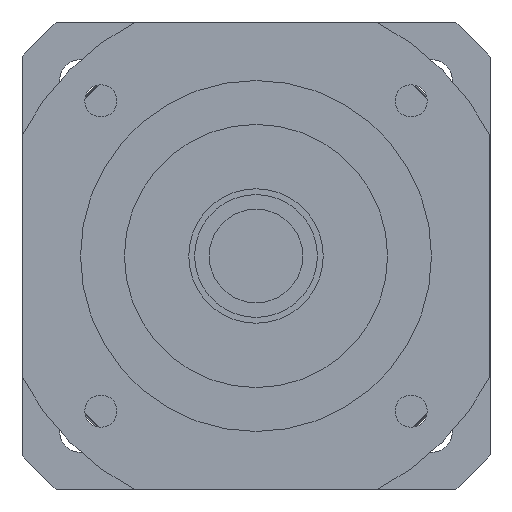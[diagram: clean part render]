
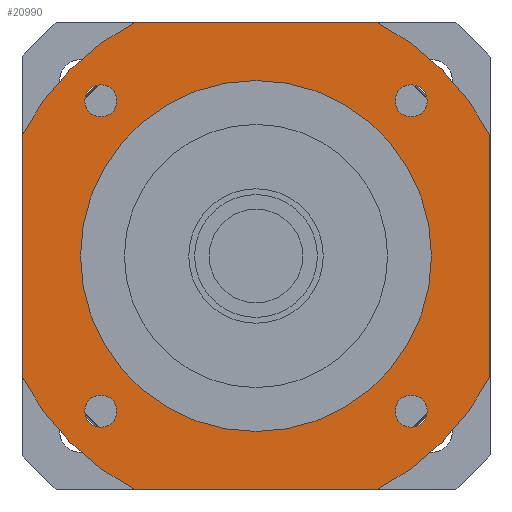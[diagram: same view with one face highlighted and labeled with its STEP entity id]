
A CAD part, left-side view. The second image highlights one B-rep face of the part: STEP entity #20990.
In plain terms, the highlighted planar face has unit normal (-1, 0, 0) as drawn and (0, 0, -1) by its records, which use the part's own axes.
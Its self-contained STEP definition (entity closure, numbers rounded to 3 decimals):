
#19320=CARTESIAN_POINT('',(-26.517,-23.767,-42.));
#19330=VERTEX_POINT('',#19320);
#19360=CARTESIAN_POINT('',(-26.517,-26.517,-42.));
#19370=DIRECTION('',(0.,0.,-1.));
#19380=DIRECTION('',(0.,-1.,0.));
#19390=AXIS2_PLACEMENT_3D('',#19360,#19370,#19380);
#19400=CIRCLE('',#19390,2.75);
#19410=CARTESIAN_POINT('',(-26.517,-29.267,-42.));
#19420=VERTEX_POINT('',#19410);
#19430=EDGE_CURVE('',#19420,#19330,#19400,.T.);
#19550=CARTESIAN_POINT('',(40.,40.,-42.));
#19560=DIRECTION('',(0.,0.,-1.));
#19570=DIRECTION('',(1.,0.,0.));
#19580=AXIS2_PLACEMENT_3D('',#19550,#19560,#19570);
#19590=PLANE('',#19580);
#19600=ORIENTED_EDGE('',*,*,#19430,.F.);
#19610=EDGE_CURVE('',#19330,#19420,#19400,.T.);
#19620=ORIENTED_EDGE('',*,*,#19610,.F.);
#19630=EDGE_LOOP('',(#19620,#19600));
#19640=FACE_BOUND('',#19630,.T.);
#19650=CARTESIAN_POINT('',(-26.517,26.517,-42.));
#19660=DIRECTION('',(0.,0.,-1.));
#19670=DIRECTION('',(-1.,0.,0.));
#19680=AXIS2_PLACEMENT_3D('',#19650,#19660,#19670);
#19690=CIRCLE('',#19680,2.75);
#19700=CARTESIAN_POINT('',(-29.267,26.517,-42.));
#19710=VERTEX_POINT('',#19700);
#19720=CARTESIAN_POINT('',(-23.767,26.517,-42.));
#19730=VERTEX_POINT('',#19720);
#19740=EDGE_CURVE('',#19710,#19730,#19690,.T.);
#19750=ORIENTED_EDGE('',*,*,#19740,.F.);
#19760=EDGE_CURVE('',#19730,#19710,#19690,.T.);
#19770=ORIENTED_EDGE('',*,*,#19760,.F.);
#19780=EDGE_LOOP('',(#19770,#19750));
#19790=FACE_BOUND('',#19780,.T.);
#19800=CARTESIAN_POINT('',(26.517,26.517,-42.));
#19810=DIRECTION('',(0.,0.,-1.));
#19820=DIRECTION('',(0.,1.,0.));
#19830=AXIS2_PLACEMENT_3D('',#19800,#19810,#19820);
#19840=CIRCLE('',#19830,2.75);
#19850=CARTESIAN_POINT('',(26.517,29.267,-42.));
#19860=VERTEX_POINT('',#19850);
#19870=CARTESIAN_POINT('',(26.517,23.767,-42.));
#19880=VERTEX_POINT('',#19870);
#19890=EDGE_CURVE('',#19860,#19880,#19840,.T.);
#19900=ORIENTED_EDGE('',*,*,#19890,.F.);
#19910=EDGE_CURVE('',#19880,#19860,#19840,.T.);
#19920=ORIENTED_EDGE('',*,*,#19910,.F.);
#19930=EDGE_LOOP('',(#19920,#19900));
#19940=FACE_BOUND('',#19930,.T.);
#19950=CARTESIAN_POINT('',(0.,0.,
-42.));
#19960=DIRECTION('',(0.,0.,1.));
#19970=DIRECTION('',(0.,1.,0.));
#19980=AXIS2_PLACEMENT_3D('',#19950,#19960,#19970);
#19990=CIRCLE('',#19980,30.);
#20000=CARTESIAN_POINT('',(-30.,0.,-42.));
#20010=VERTEX_POINT('',#20000);
#20020=CARTESIAN_POINT('',(30.,0.,-42.));
#20030=VERTEX_POINT('',#20020);
#20040=EDGE_CURVE('',#20010,#20030,#19990,.T.);
#20050=ORIENTED_EDGE('',*,*,#20040,.T.);
#20060=CARTESIAN_POINT('',(0.,30.,-42.));
#20070=VERTEX_POINT('',#20060);
#20080=EDGE_CURVE('',#20070,#20010,#19990,.T.);
#20090=ORIENTED_EDGE('',*,*,#20080,.T.);
#20100=EDGE_CURVE('',#20030,#20070,#19990,.T.);
#20110=ORIENTED_EDGE('',*,*,#20100,.T.);
#20120=EDGE_LOOP('',(#20110,#20090,#20050));
#20130=FACE_BOUND('',#20120,.T.);
#20140=CARTESIAN_POINT('',(-40.,40.,-42.));
#20150=DIRECTION('',(1.,0.,0.));
#20160=VECTOR('',#20150,1000.);
#20170=LINE('',#20140,#20160);
#20180=CARTESIAN_POINT('',(-20.616,40.,-42.));
#20190=VERTEX_POINT('',#20180);
#20200=CARTESIAN_POINT('',(20.616,40.,-42.));
#20210=VERTEX_POINT('',#20200);
#20220=EDGE_CURVE('',#20190,#20210,#20170,.T.);
#20230=ORIENTED_EDGE('',*,*,#20220,.T.);
#20240=CARTESIAN_POINT('',(0.,0.,
-42.));
#20250=DIRECTION('',(0.,0.,-1.));
#20260=DIRECTION('',(1.,0.,0.));
#20270=AXIS2_PLACEMENT_3D('',#20240,#20250,#20260);
#20280=CIRCLE('',#20270,45.);
#20290=CARTESIAN_POINT('',(-40.,20.616,-42.));
#20300=VERTEX_POINT('',#20290);
#20310=EDGE_CURVE('',#20300,#20190,#20280,.T.);
#20320=ORIENTED_EDGE('',*,*,#20310,.T.);
#20330=CARTESIAN_POINT('',(-40.,-40.,-42.));
#20340=DIRECTION('',(0.,1.,0.));
#20350=VECTOR('',#20340,1000.);
#20360=LINE('',#20330,#20350);
#20370=CARTESIAN_POINT('',(-40.,-20.616,-42.));
#20380=VERTEX_POINT('',#20370);
#20390=EDGE_CURVE('',#20380,#20300,#20360,.T.);
#20400=ORIENTED_EDGE('',*,*,#20390,.T.);
#20410=CARTESIAN_POINT('',(0.,0.,
-42.));
#20420=DIRECTION('',(0.,0.,-1.));
#20430=DIRECTION('',(1.,0.,0.));
#20440=AXIS2_PLACEMENT_3D('',#20410,#20420,#20430);
#20450=CIRCLE('',#20440,45.);
#20460=CARTESIAN_POINT('',(-20.616,-40.,-42.));
#20470=VERTEX_POINT('',#20460);
#20480=EDGE_CURVE('',#20470,#20380,#20450,.T.);
#20490=ORIENTED_EDGE('',*,*,#20480,.T.);
#20500=CARTESIAN_POINT('',(40.,-40.,-42.));
#20510=DIRECTION('',(-1.,0.,0.));
#20520=VECTOR('',#20510,1000.);
#20530=LINE('',#20500,#20520);
#20540=CARTESIAN_POINT('',(20.616,-40.,-42.));
#20550=VERTEX_POINT('',#20540);
#20560=EDGE_CURVE('',#20550,#20470,#20530,.T.);
#20570=ORIENTED_EDGE('',*,*,#20560,.T.);
#20580=CARTESIAN_POINT('',(0.,0.,
-42.));
#20590=DIRECTION('',(0.,0.,-1.));
#20600=DIRECTION('',(1.,0.,0.));
#20610=AXIS2_PLACEMENT_3D('',#20580,#20590,#20600);
#20620=CIRCLE('',#20610,45.);
#20630=CARTESIAN_POINT('',(40.,-20.616,-42.));
#20640=VERTEX_POINT('',#20630);
#20650=EDGE_CURVE('',#20640,#20550,#20620,.T.);
#20660=ORIENTED_EDGE('',*,*,#20650,.T.);
#20670=CARTESIAN_POINT('',(40.,40.,-42.));
#20680=DIRECTION('',(0.,-1.,0.));
#20690=VECTOR('',#20680,1000.);
#20700=LINE('',#20670,#20690);
#20710=CARTESIAN_POINT('',(40.,20.616,-42.));
#20720=VERTEX_POINT('',#20710);
#20730=EDGE_CURVE('',#20720,#20640,#20700,.T.);
#20740=ORIENTED_EDGE('',*,*,#20730,.T.);
#20750=CARTESIAN_POINT('',(0.,0.,
-42.));
#20760=DIRECTION('',(0.,0.,-1.));
#20770=DIRECTION('',(1.,0.,0.));
#20780=AXIS2_PLACEMENT_3D('',#20750,#20760,#20770);
#20790=CIRCLE('',#20780,45.);
#20800=EDGE_CURVE('',#20210,#20720,#20790,.T.);
#20810=ORIENTED_EDGE('',*,*,#20800,.T.);
#20820=EDGE_LOOP('',(#20810,#20740,#20660,#20570,#20490,#20400,#20320,
#20230));
#20830=FACE_OUTER_BOUND('',#20820,.T.);
#20840=CARTESIAN_POINT('',(26.517,-26.517,-42.));
#20850=DIRECTION('',(0.,0.,-1.));
#20860=DIRECTION('',(1.,0.,0.));
#20870=AXIS2_PLACEMENT_3D('',#20840,#20850,#20860);
#20880=CIRCLE('',#20870,2.75);
#20890=CARTESIAN_POINT('',(29.267,-26.517,-42.));
#20900=VERTEX_POINT('',#20890);
#20910=CARTESIAN_POINT('',(23.767,-26.517,-42.));
#20920=VERTEX_POINT('',#20910);
#20930=EDGE_CURVE('',#20900,#20920,#20880,.T.);
#20940=ORIENTED_EDGE('',*,*,#20930,.F.);
#20950=EDGE_CURVE('',#20920,#20900,#20880,.T.);
#20960=ORIENTED_EDGE('',*,*,#20950,.F.);
#20970=EDGE_LOOP('',(#20960,#20940));
#20980=FACE_BOUND('',#20970,.T.);
#20990=ADVANCED_FACE('',(#19640,#19790,#19940,#20130,#20830,#20980),
#19590,.T.);
